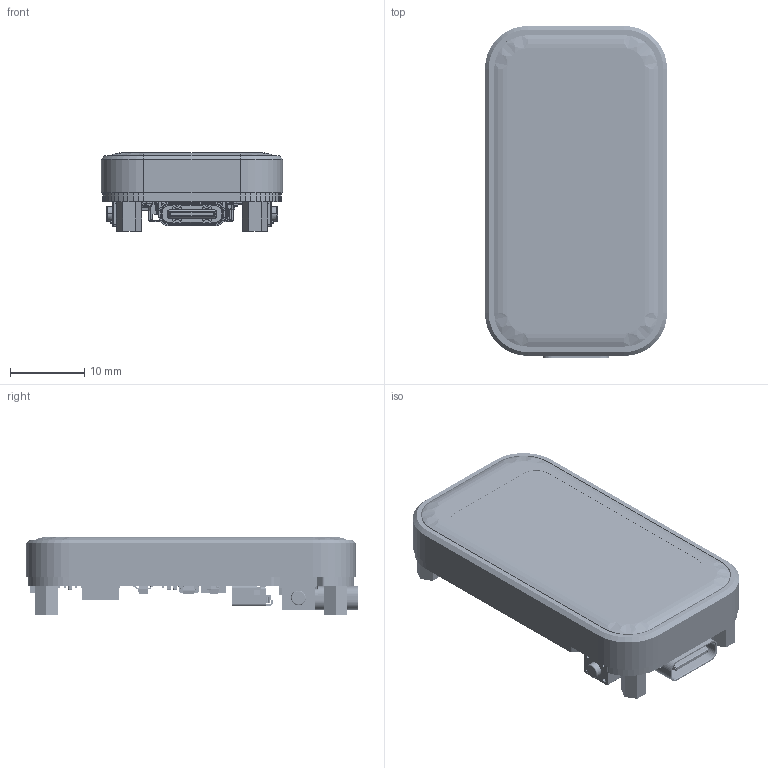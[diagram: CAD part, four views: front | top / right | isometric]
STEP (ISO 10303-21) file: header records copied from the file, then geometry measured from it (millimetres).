
FILE_DESCRIPTION((''),'2;1');
FILE_NAME('ESP32-C6-TOUCH-LCD-1_47_ASM','2026-03-31T09:28:26',('xiaojisheng'),(''),'CREO PARAMETRIC BY PTC INC, 2021063','CREO PARAMETRIC BY PTC INC, 2021063','');
FILE_SCHEMA(('CONFIG_CONTROL_DESIGN','SHAPE_APPEARANCE_LAYERS_GROUPS'));
Products named in the file (165): HSX01470105002B-A0; HSX0147024Y15-A0; HSX0147-TP_LCD_ASM; ESP32-S3-TOUCH-LCD-1_47-CASE; BOARD; USER_LIBRARY-0201_0603M__CAP_1; USER_LIBRARY-0201_0603M__CAP_2; USER_LIBRARY-0201_0603M__CAP_3; USER_LIBRARY-0201_0603M__CAP_ASM; C22_ASM; SWITCHER-4_5X3_3XH3_4; KEY2_ASM; KEY1_ASM; EXTRUDED-27405; 941181904_ASM; Y1_ASM; EXTRUDED-27800; 1061818928_ASM; U1_ASM; SOT23-5AND6_00; SOT23-5-14065_AF0; SOT23-5-14113_AF0_ASM_ASM; SOT23-5-2_ASM; U4_ASM; C1_ASM; C2_ASM; C3_ASM; C4_ASM; C5_ASM; C6_ASM; C7_ASM; _1_10001; 3_1_A; 2_100; C_0402-672_AF0_ASM_ASM; C_0402-4045_AF0_ASM_ASM; C_0402_ASM; C8_ASM; C9_ASM; C10_ASM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
Assembly tree (218 placements, depth 9):
  ESP32-C6-TOUCH-LCD-1_47_ASM
    HSX0147-TP_LCD_ASM
      HSX01470105002B-A0
      HSX0147024Y15-A0
    ESP32-S3-TOUCH-LCD-1_47-CASE
    ESP32-C6-TOUCH-LCD-1_47-PCBA_ASM
      ESP32-C6-TOUCH-LCD-1_47-PCBV0_ASM
        PCB_ASM
          BOARD
          C22_ASM
            USER_LIBRARY-0201_0603M__CAP_ASM
              USER_LIBRARY-0201_0603M__CAP_1
              USER_LIBRARY-0201_0603M__CAP_2
              USER_LIBRARY-0201_0603M__CAP_3
          KEY2_ASM
            SWITCHER-4_5X3_3XH3_4
          KEY1_ASM
            SWITCHER-4_5X3_3XH3_4
          Y1_ASM
            941181904_ASM
              EXTRUDED-27405
          U1_ASM
            1061818928_ASM
              EXTRUDED-27800
          U4_ASM
            SOT23-5-2_ASM
              SOT23-5-14113_AF0_ASM_ASM
                SOT23-5AND6_00  x5
                SOT23-5-14065_AF0
          C1_ASM
            USER_LIBRARY-0201_0603M__CAP_ASM
              USER_LIBRARY-0201_0603M__CAP_1
              USER_LIBRARY-0201_0603M__CAP_2
              USER_LIBRARY-0201_0603M__CAP_3
          C2_ASM
            USER_LIBRARY-0201_0603M__CAP_ASM
              USER_LIBRARY-0201_0603M__CAP_1
              USER_LIBRARY-0201_0603M__CAP_2
              USER_LIBRARY-0201_0603M__CAP_3
          C3_ASM
            USER_LIBRARY-0201_0603M__CAP_ASM
              USER_LIBRARY-0201_0603M__CAP_1
              USER_LIBRARY-0201_0603M__CAP_2
              USER_LIBRARY-0201_0603M__CAP_3
          C4_ASM
            USER_LIBRARY-0201_0603M__CAP_ASM
              USER_LIBRARY-0201_0603M__CAP_1
              USER_LIBRARY-0201_0603M__CAP_2
              USER_LIBRARY-0201_0603M__CAP_3
          C5_ASM
            USER_LIBRARY-0201_0603M__CAP_ASM
              USER_LIBRARY-0201_0603M__CAP_1
              USER_LIBRARY-0201_0603M__CAP_2
              USER_LIBRARY-0201_0603M__CAP_3
          C6_ASM
            USER_LIBRARY-0201_0603M__CAP_ASM
              USER_LIBRARY-0201_0603M__CAP_1
              USER_LIBRARY-0201_0603M__CAP_2
              USER_LIBRARY-0201_0603M__CAP_3
          C7_ASM
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Bounding box: 24.55 x 44.77 x 10.6 mm (x, y, z)
Volume: 5585 mm3; surface area: 11175.4 mm2
Topology: 238 solids, 253 shells, 11248 faces, 29801 edges, 19310 vertices
Faces by surface type: plane 7007, extrusion 2051, cylinder 1771, sphere 251, cone 64, bspline 60, torus 44
Entity records: 226516 total; most frequent: CARTESIAN_POINT 47978, ORIENTED_EDGE 29864, DIRECTION 27463, EDGE_CURVE 14935, VECTOR 11953, LINE 11521, PRESENTATION_STYLE_ASSIGNMENT 11095, STYLED_ITEM 10540
